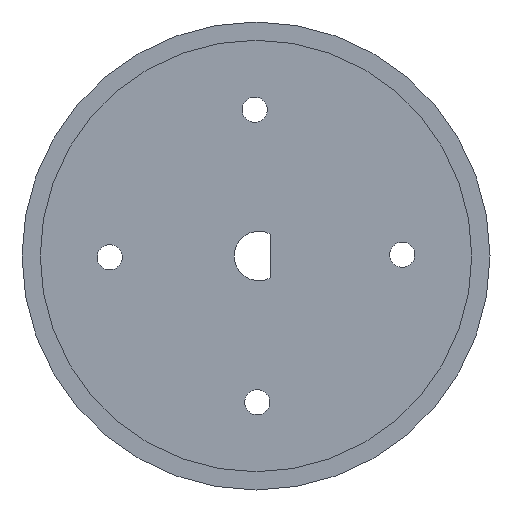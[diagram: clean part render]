
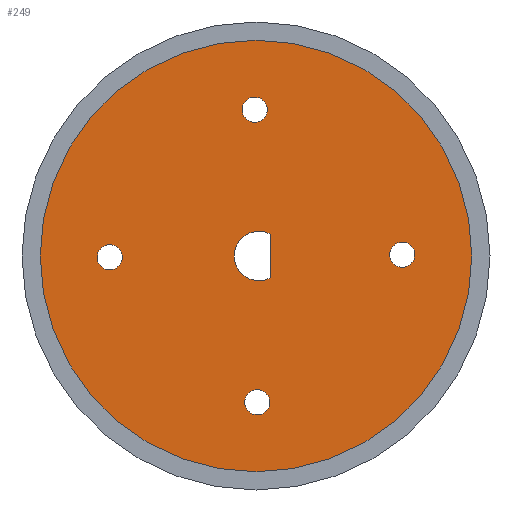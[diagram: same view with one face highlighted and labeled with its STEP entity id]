
A CAD part, front view. The second image highlights one B-rep face of the part: STEP entity #249.
In plain terms, the highlighted planar face has unit normal (0, -1, 0).
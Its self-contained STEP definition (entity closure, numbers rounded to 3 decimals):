
#25=FACE_BOUND('',#82,.T.);
#26=FACE_BOUND('',#83,.T.);
#27=FACE_BOUND('',#84,.T.);
#28=FACE_BOUND('',#85,.T.);
#29=FACE_BOUND('',#86,.T.);
#31=CIRCLE('',#276,3.4);
#34=CIRCLE('',#281,29.625);
#40=CIRCLE('',#289,1.727);
#41=CIRCLE('',#290,1.727);
#42=CIRCLE('',#291,1.727);
#43=CIRCLE('',#292,1.727);
#60=FACE_OUTER_BOUND('',#81,.T.);
#81=EDGE_LOOP('',(#197));
#82=EDGE_LOOP('',(#198,#199));
#83=EDGE_LOOP('',(#200));
#84=EDGE_LOOP('',(#201));
#85=EDGE_LOOP('',(#202));
#86=EDGE_LOOP('',(#203));
#98=LINE('',#396,#112);
#112=VECTOR('',#312,10.);
#126=VERTEX_POINT('',#393);
#127=VERTEX_POINT('',#395);
#130=VERTEX_POINT('',#407);
#136=VERTEX_POINT('',#422);
#137=VERTEX_POINT('',#424);
#138=VERTEX_POINT('',#426);
#139=VERTEX_POINT('',#428);
#146=EDGE_CURVE('',#127,#126,#98,.T.);
#149=EDGE_CURVE('',#126,#127,#31,.T.);
#152=EDGE_CURVE('',#130,#130,#34,.T.);
#159=EDGE_CURVE('',#136,#136,#40,.T.);
#160=EDGE_CURVE('',#137,#137,#41,.T.);
#161=EDGE_CURVE('',#138,#138,#42,.T.);
#162=EDGE_CURVE('',#139,#139,#43,.T.);
#197=ORIENTED_EDGE('',*,*,#152,.T.);
#198=ORIENTED_EDGE('',*,*,#149,.T.);
#199=ORIENTED_EDGE('',*,*,#146,.T.);
#200=ORIENTED_EDGE('',*,*,#159,.T.);
#201=ORIENTED_EDGE('',*,*,#160,.T.);
#202=ORIENTED_EDGE('',*,*,#161,.T.);
#203=ORIENTED_EDGE('',*,*,#162,.T.);
#243=PLANE('',#288);
#249=ADVANCED_FACE('',(#60,#25,#26,#27,#28,#29),#243,.F.);
#276=AXIS2_PLACEMENT_3D('',#400,#318,#319);
#281=AXIS2_PLACEMENT_3D('',#408,#328,#329);
#288=AXIS2_PLACEMENT_3D('',#421,#343,#344);
#289=AXIS2_PLACEMENT_3D('',#423,#345,#346);
#290=AXIS2_PLACEMENT_3D('',#425,#347,#348);
#291=AXIS2_PLACEMENT_3D('',#427,#349,#350);
#292=AXIS2_PLACEMENT_3D('',#429,#351,#352);
#312=DIRECTION('',(0.,0.,-1.));
#318=DIRECTION('center_axis',(0.,1.,0.));
#319=DIRECTION('ref_axis',(0.471,0.,0.882));
#328=DIRECTION('center_axis',(0.,-1.,0.));
#329=DIRECTION('ref_axis',(1.,0.,0.));
#343=DIRECTION('center_axis',(0.,1.,0.));
#344=DIRECTION('ref_axis',(0.,0.,1.));
#345=DIRECTION('center_axis',(0.,1.,0.));
#346=DIRECTION('ref_axis',(0.,0.,1.));
#347=DIRECTION('center_axis',(0.,1.,0.));
#348=DIRECTION('ref_axis',(0.,0.,1.));
#349=DIRECTION('center_axis',(0.,1.,0.));
#350=DIRECTION('ref_axis',(0.,0.,1.));
#351=DIRECTION('center_axis',(0.,1.,0.));
#352=DIRECTION('ref_axis',(0.,0.,1.));
#393=CARTESIAN_POINT('',(2.,0.,-3.));
#395=CARTESIAN_POINT('',(2.,0.,3.));
#396=CARTESIAN_POINT('',(2.,0.,1.5));
#400=CARTESIAN_POINT('Origin',(0.4,0.,0.));
#407=CARTESIAN_POINT('',(-29.625,0.,0.));
#408=CARTESIAN_POINT('Origin',(0.,0.,0.));
#421=CARTESIAN_POINT('Origin',(0.,0.,0.));
#422=CARTESIAN_POINT('',(-0.17,0.,18.352));
#423=CARTESIAN_POINT('Origin',(-0.17,0.,20.079));
#424=CARTESIAN_POINT('',(-20.079,0.,-1.897));
#425=CARTESIAN_POINT('Origin',(-20.079,0.,-0.17));
#426=CARTESIAN_POINT('',(0.17,0.,-21.806));
#427=CARTESIAN_POINT('Origin',(0.17,0.,-20.079));
#428=CARTESIAN_POINT('',(20.079,0.,-1.557));
#429=CARTESIAN_POINT('Origin',(20.079,0.,0.17));
